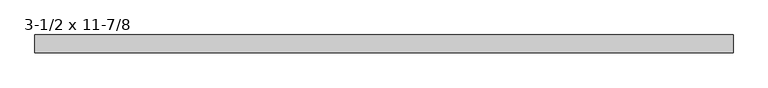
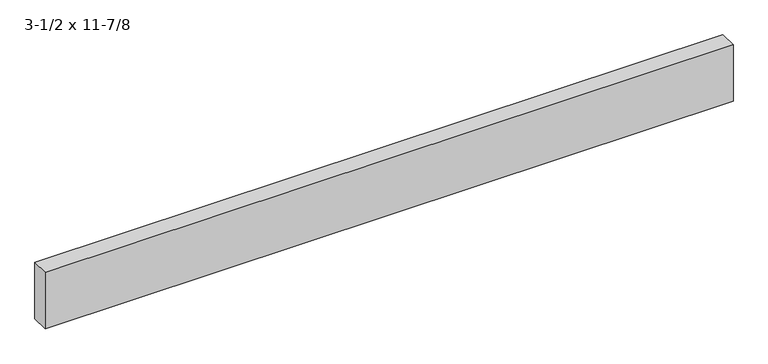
"""IFC4 building model written with IfcOpenShell, lengths in millimetres: beam geometry, Trus Joist - Parallam PSL - Beam Header : 3-1/2 x 11-7/8."""

from ifc_helpers import new_model, si_unit, frame, origin, place, context, project, spatial, polyline, outline, extrude, source, transform, mapped, element, save


def beam_3_1_2_x_11_7_8_084f99a0(model_context):
    return source(origin(), model_context, "Body", "SweptSolid", [
        extrude(outline(polyline([(1739.9, 44.45), (1739.9, -44.45), (-1739.9, -44.45), (-1739.9, 44.45), (1739.9, 44.45)])), frame((0.0, 0.0, -150.8125), z_axis=(0.0, 0.0, 1.0), x_axis=(1.0, 0.0, 0.0)), (0.0, 0.0, 1.0), 301.625),
    ])


if __name__ == "__main__":
    model = new_model("IFC4")
    model_context = context("Model", 3, world=origin())
    ifc_project = project(units=[si_unit("LENGTHUNIT", "METRE", prefix="MILLI")], contexts=[model_context])
    site = spatial("IfcSite", under=ifc_project)
    building = spatial("IfcBuilding", under=site)
    placement = place(None, origin())
    beam_3_1_2_x_11_7_8_shape = beam_3_1_2_x_11_7_8_084f99a0(model_context)
    element("IfcBeam", 1, ObjectType="Trus Joist - Parallam PSL - Beam Header : 3-1/2 x 11-7/8", at=placement, inside=building, context=model_context, shape_type="MappedRepresentation", body=[
        mapped(beam_3_1_2_x_11_7_8_shape, transform((0.0, 0.0, 0.0), x_axis=(1.0, 0.0, 0.0), y_axis=(0.0, 1.0, 0.0), z_axis=(0.0, 0.0, 1.0))),
    ])
    save(model, "model.ifc")
